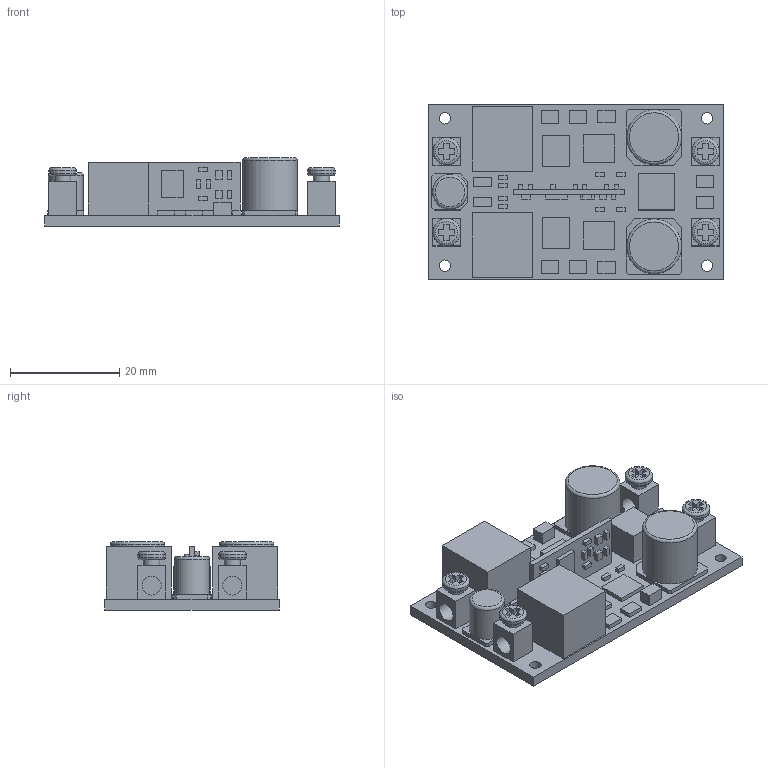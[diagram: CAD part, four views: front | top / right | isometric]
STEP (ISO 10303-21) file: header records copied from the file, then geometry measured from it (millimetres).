
FILE_DESCRIPTION( ( 'STEP AP203' ), '1' );
FILE_NAME( 'E:/Program Files (x86)/Program Files/Files/Design/UHF结构/盒体/功放底板/模型/8.4V-45A.stp', '2026-04-23T08:30:00', ( ' ' ), ( ' ' ), 'XStep 1.0', ' ', ' ' );
FILE_SCHEMA( ( 'CONFIG_CONTROL_DESIGN) ( )' ) );
Length unit declared in the file: metre
Products named in the file (1): 1
Bounding box: 54 x 32 x 12.5 mm (x, y, z)
Volume: 9156.8 mm3; surface area: 7355.9 mm2
Topology: 1 solids, 1 shells, 411 faces, 1002 edges, 668 vertices
Faces by surface type: plane 381, cylinder 19, torus 11
Full cylindrical faces by diameter (mm): 2.1 x4, 3 x4, 3.5 x4, 5 x4, 6.4 x1, 10 x2
Entity records: 11672 total; most frequent: CARTESIAN_POINT 2030, ORIENTED_EDGE 1922, DIRECTION 1834, EDGE_CURVE 961, LINE 912, VECTOR 912, VERTEX_POINT 657, EDGE_LOOP 532
